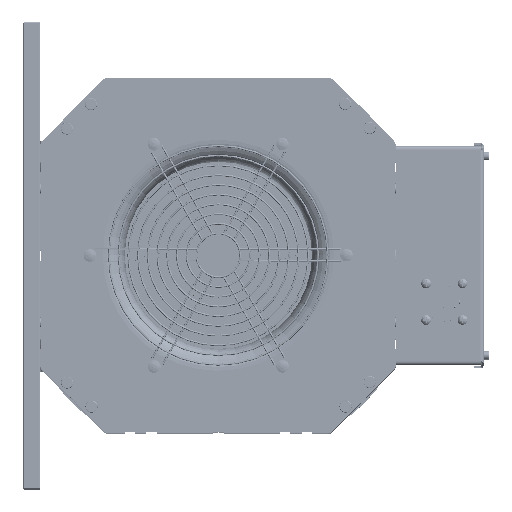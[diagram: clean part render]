
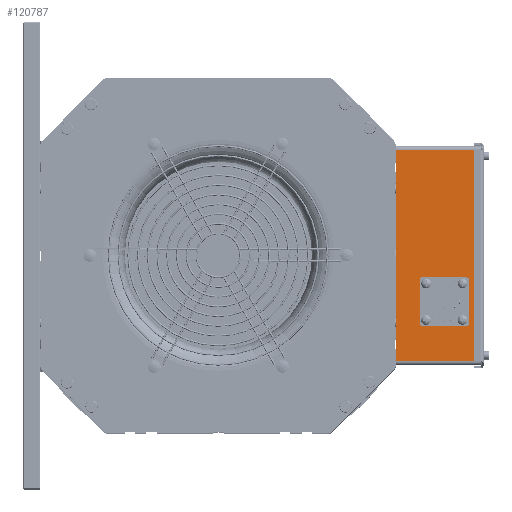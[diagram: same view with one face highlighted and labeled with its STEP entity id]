
A CAD part, top view. The second image highlights one B-rep face of the part: STEP entity #120787.
In plain terms, the highlighted planar face has unit normal (0, 0, 1) as drawn and (-1, 0, 0) by its records, which use the part's own axes.
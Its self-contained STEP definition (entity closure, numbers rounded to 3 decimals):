
#118389=DIRECTION('',(0.,0.,1.));
#118390=VECTOR('',#118389,174.);
#118391=CARTESIAN_POINT('',(-100.,0.,-87.));
#118392=LINE('',#118391,#118390);
#118516=DIRECTION('',(0.,-1.,0.));
#118517=VECTOR('',#118516,70.);
#118518=CARTESIAN_POINT('',(-100.,70.,-87.));
#118519=LINE('',#118518,#118517);
#118568=DIRECTION('',(0.,1.,0.));
#118569=VECTOR('',#118568,70.);
#118570=CARTESIAN_POINT('',(-100.,0.,87.));
#118571=LINE('',#118570,#118569);
#118576=DIRECTION('',(0.,0.,1.));
#118577=VECTOR('',#118576,174.);
#118578=CARTESIAN_POINT('',(-100.,70.,-87.));
#118579=LINE('',#118578,#118577);
#118580=CARTESIAN_POINT('',(-100.,30.,-38.));
#118581=DIRECTION('',(-1.,0.,0.));
#118582=DIRECTION('',(0.,1.,0.));
#118583=AXIS2_PLACEMENT_3D('',#118580,#118581,#118582);
#118585=CARTESIAN_POINT('',(-100.,30.,-38.));
#118586=DIRECTION('',(-1.,0.,0.));
#118587=DIRECTION('',(0.,-1.,0.));
#118588=AXIS2_PLACEMENT_3D('',#118585,#118586,#118587);
#118590=CARTESIAN_POINT('',(-100.,45.,-53.));
#118591=DIRECTION('',(-1.,0.,0.));
#118592=DIRECTION('',(0.,1.,0.));
#118593=AXIS2_PLACEMENT_3D('',#118590,#118591,#118592);
#118595=CARTESIAN_POINT('',(-100.,45.,-53.));
#118596=DIRECTION('',(-1.,0.,0.));
#118597=DIRECTION('',(0.,-1.,0.));
#118598=AXIS2_PLACEMENT_3D('',#118595,#118596,#118597);
#118600=CARTESIAN_POINT('',(-100.,15.,-53.));
#118601=DIRECTION('',(-1.,0.,0.));
#118602=DIRECTION('',(0.,0.,-1.));
#118603=AXIS2_PLACEMENT_3D('',#118600,#118601,#118602);
#118605=CARTESIAN_POINT('',(-100.,15.,-53.));
#118606=DIRECTION('',(-1.,0.,0.));
#118607=DIRECTION('',(0.,0.,1.));
#118608=AXIS2_PLACEMENT_3D('',#118605,#118606,#118607);
#118610=CARTESIAN_POINT('',(-100.,15.,-23.));
#118611=DIRECTION('',(-1.,0.,0.));
#118612=DIRECTION('',(0.,-1.,0.));
#118613=AXIS2_PLACEMENT_3D('',#118610,#118611,#118612);
#118615=CARTESIAN_POINT('',(-100.,15.,-23.));
#118616=DIRECTION('',(-1.,0.,0.));
#118617=DIRECTION('',(0.,1.,0.));
#118618=AXIS2_PLACEMENT_3D('',#118615,#118616,#118617);
#118620=CARTESIAN_POINT('',(-100.,45.,-23.));
#118621=DIRECTION('',(-1.,0.,0.));
#118622=DIRECTION('',(0.,0.,1.));
#118623=AXIS2_PLACEMENT_3D('',#118620,#118621,#118622);
#118625=CARTESIAN_POINT('',(-100.,45.,-23.));
#118626=DIRECTION('',(-1.,0.,0.));
#118627=DIRECTION('',(0.,0.,-1.));
#118628=AXIS2_PLACEMENT_3D('',#118625,#118626,#118627);
#120065=CARTESIAN_POINT('',(-100.,0.,-87.));
#120067=VERTEX_POINT('',#120065);
#120068=CARTESIAN_POINT('',(-100.,0.,87.));
#120069=VERTEX_POINT('',#120068);
#120122=CARTESIAN_POINT('',(-100.,70.,-87.));
#120123=VERTEX_POINT('',#120122);
#120142=CARTESIAN_POINT('',(-100.,70.,87.));
#120143=VERTEX_POINT('',#120142);
#120144=CARTESIAN_POINT('',(-100.,46.,-38.));
#120145=CARTESIAN_POINT('',(-100.,14.,-38.));
#120146=VERTEX_POINT('',#120144);
#120147=VERTEX_POINT('',#120145);
#120148=CARTESIAN_POINT('',(-100.,46.75,-53.));
#120149=CARTESIAN_POINT('',(-100.,43.25,-53.));
#120150=VERTEX_POINT('',#120148);
#120151=VERTEX_POINT('',#120149);
#120152=CARTESIAN_POINT('',(-100.,15.,-54.75));
#120153=CARTESIAN_POINT('',(-100.,15.,-51.25));
#120154=VERTEX_POINT('',#120152);
#120155=VERTEX_POINT('',#120153);
#120156=CARTESIAN_POINT('',(-100.,13.25,-23.));
#120157=CARTESIAN_POINT('',(-100.,16.75,-23.));
#120158=VERTEX_POINT('',#120156);
#120159=VERTEX_POINT('',#120157);
#120160=CARTESIAN_POINT('',(-100.,45.,-21.25));
#120161=CARTESIAN_POINT('',(-100.,45.,-24.75));
#120162=VERTEX_POINT('',#120160);
#120163=VERTEX_POINT('',#120161);
#120745=CARTESIAN_POINT('',(-100.,0.,-90.));
#120746=DIRECTION('',(-1.,0.,0.));
#120747=DIRECTION('',(0.,0.,1.));
#120748=AXIS2_PLACEMENT_3D('',#120745,#120746,#120747);
#120749=PLANE('',#120748);
#120750=ORIENTED_EDGE('',*,*,#120644,.F.);
#120752=ORIENTED_EDGE('',*,*,#120751,.T.);
#120753=ORIENTED_EDGE('',*,*,#120737,.F.);
#120754=ORIENTED_EDGE('',*,*,#120567,.F.);
#120755=EDGE_LOOP('',(#120750,#120752,#120753,#120754));
#120756=FACE_OUTER_BOUND('',#120755,.F.);
#120758=ORIENTED_EDGE('',*,*,#120757,.T.);
#120760=ORIENTED_EDGE('',*,*,#120759,.T.);
#120761=EDGE_LOOP('',(#120758,#120760));
#120762=FACE_BOUND('',#120761,.F.);
#120764=ORIENTED_EDGE('',*,*,#120763,.T.);
#120766=ORIENTED_EDGE('',*,*,#120765,.T.);
#120767=EDGE_LOOP('',(#120764,#120766));
#120768=FACE_BOUND('',#120767,.F.);
#120770=ORIENTED_EDGE('',*,*,#120769,.T.);
#120772=ORIENTED_EDGE('',*,*,#120771,.T.);
#120773=EDGE_LOOP('',(#120770,#120772));
#120774=FACE_BOUND('',#120773,.F.);
#120776=ORIENTED_EDGE('',*,*,#120775,.T.);
#120778=ORIENTED_EDGE('',*,*,#120777,.T.);
#120779=EDGE_LOOP('',(#120776,#120778));
#120780=FACE_BOUND('',#120779,.F.);
#120782=ORIENTED_EDGE('',*,*,#120781,.T.);
#120784=ORIENTED_EDGE('',*,*,#120783,.T.);
#120785=EDGE_LOOP('',(#120782,#120784));
#120786=FACE_BOUND('',#120785,.F.);
#120787=ADVANCED_FACE('',(#120756,#120762,#120768,#120774,#120780,#120786),
#120749,.T.);
#118584=CIRCLE('',#118583,16.);
#118589=CIRCLE('',#118588,16.);
#118594=CIRCLE('',#118593,1.75);
#118599=CIRCLE('',#118598,1.75);
#118604=CIRCLE('',#118603,1.75);
#118609=CIRCLE('',#118608,1.75);
#118614=CIRCLE('',#118613,1.75);
#118619=CIRCLE('',#118618,1.75);
#118624=CIRCLE('',#118623,1.75);
#118629=CIRCLE('',#118628,1.75);
#120567=EDGE_CURVE('',#120067,#120069,#118392,.T.);
#120644=EDGE_CURVE('',#120123,#120067,#118519,.T.);
#120737=EDGE_CURVE('',#120069,#120143,#118571,.T.);
#120751=EDGE_CURVE('',#120123,#120143,#118579,.T.);
#120757=EDGE_CURVE('',#120146,#120147,#118584,.T.);
#120759=EDGE_CURVE('',#120147,#120146,#118589,.T.);
#120763=EDGE_CURVE('',#120150,#120151,#118594,.T.);
#120765=EDGE_CURVE('',#120151,#120150,#118599,.T.);
#120769=EDGE_CURVE('',#120154,#120155,#118604,.T.);
#120771=EDGE_CURVE('',#120155,#120154,#118609,.T.);
#120775=EDGE_CURVE('',#120158,#120159,#118614,.T.);
#120777=EDGE_CURVE('',#120159,#120158,#118619,.T.);
#120781=EDGE_CURVE('',#120162,#120163,#118624,.T.);
#120783=EDGE_CURVE('',#120163,#120162,#118629,.T.);
